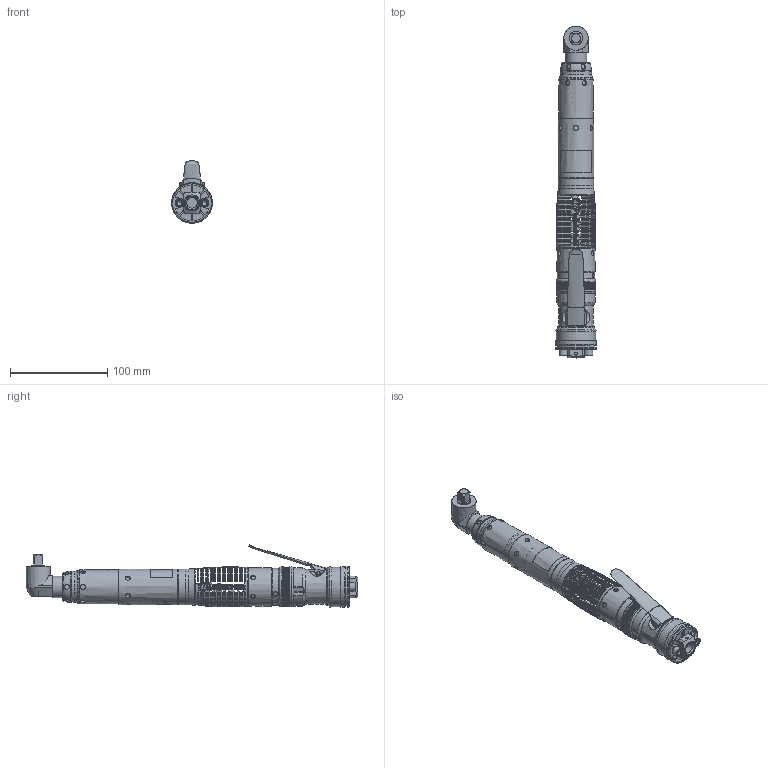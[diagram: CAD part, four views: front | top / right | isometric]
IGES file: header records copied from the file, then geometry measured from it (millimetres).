
Global section: file name: C:\Documents and Settings\jyoung\Desktop\QA4AALS011NP25S06.igs; native system: Unigraphics Version X V2.0; preprocessor: Unigraphics NX IGES V2.0; date: 20051010.151347; units: millimetre
Bounding box: 42 x 341.95 x 64.44 mm (x, y, z)
Surface area: 69582.3 mm2 (no closed solid volume)
Topology: 0 solids, 1 shells, 3012 faces, 30775 edges, 30616 vertices
Faces by surface type: extrusion 1219, revolution 1064, bspline 729
